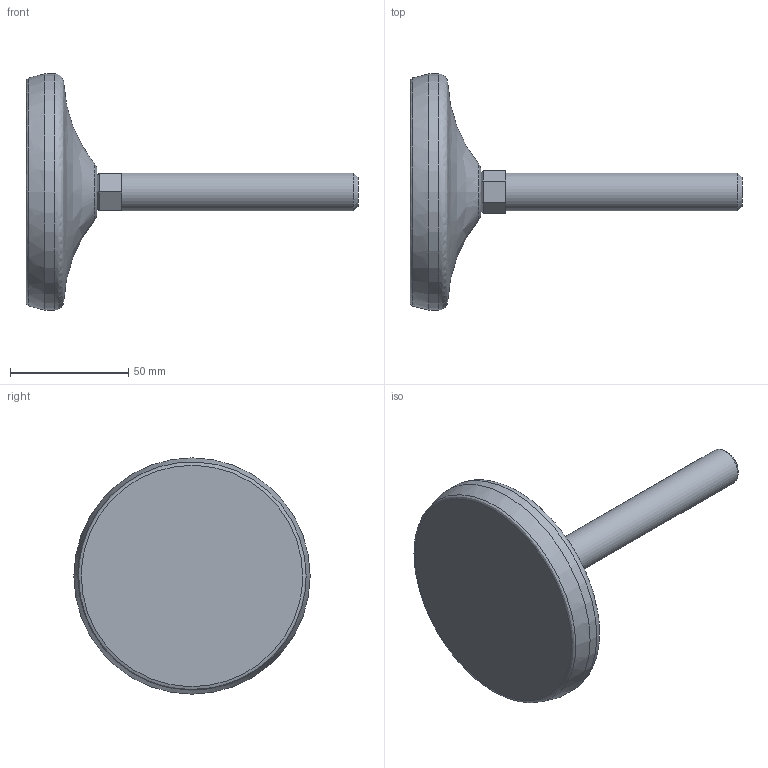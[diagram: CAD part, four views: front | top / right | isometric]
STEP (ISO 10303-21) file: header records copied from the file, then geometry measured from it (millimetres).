
FILE_DESCRIPTION(('STEP AP203'),'2;1');
FILE_NAME('26092.stp','2014-11-18T09:03:51',(''),(''),'2008.1.107','THINKDESIGN','');
FILE_SCHEMA(('CONFIG_CONTROL_DESIGN'));
Length unit declared in the file: millimetre
Bounding box: 140.5 x 100 x 100 mm (x, y, z)
Volume: 170296 mm3; surface area: 41974.7 mm2
Topology: 4 solids, 4 shells, 28 faces, 60 edges, 40 vertices
Faces by surface type: plane 14, bspline 12, cylinder 2
Full cylindrical faces by diameter (mm): 16 x1, 100 x1
Entity records: 1627 total; most frequent: CARTESIAN_POINT 949, ORIENTED_EDGE 120, DIRECTION 110, EDGE_CURVE 60, VERTEX_POINT 40, AXIS2_PLACEMENT_3D 38, VECTOR 34, LINE 34
